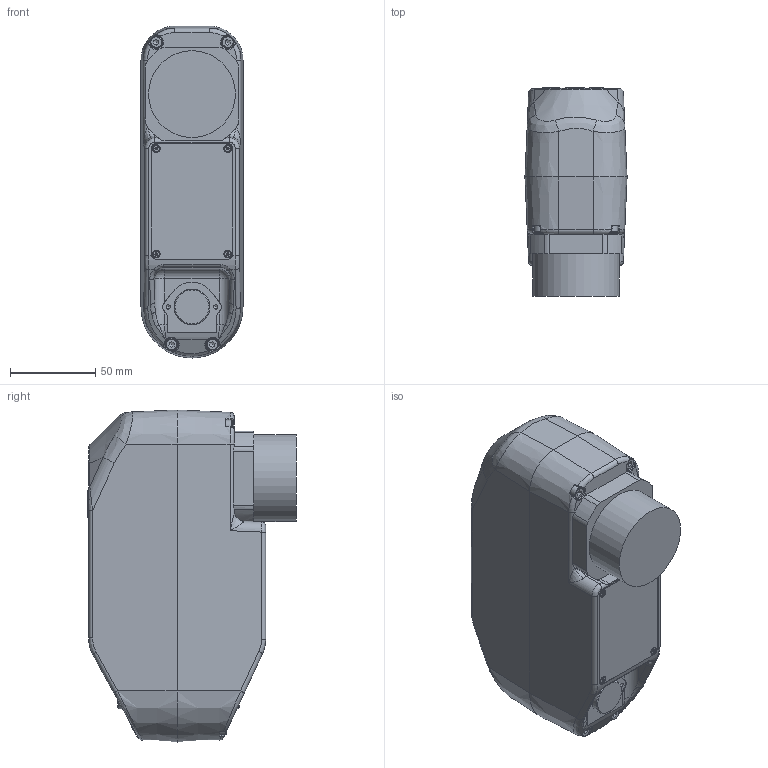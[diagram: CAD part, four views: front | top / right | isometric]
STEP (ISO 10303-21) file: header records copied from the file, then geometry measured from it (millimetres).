
FILE_DESCRIPTION(/* description */ (''),/* implementation_level */ '2;1');
FILE_NAME(/* name */ 'Distal link assembly_Shrinkwrap_1.stp',/* time_stamp */ '2023-09-11T10:15:01-04:00',/* author */ ('Jonathan'),/* organization */ (''),/* preprocessor_version */ 'ST-DEVELOPER v19.2',/* originating_system */ 'Autodesk Inventor 2024',/* authorisation */ '');
FILE_SCHEMA (('AUTOMOTIVE_DESIGN { 1 0 10303 214 3 1 1 }'));
Length unit declared in the file: inch
Products named in the file (1): Distal link assembly_Shrinkwrap_1
Bounding box: 60 x 122.5 x 195 mm (x, y, z)
Volume: 1008990.8 mm3; surface area: 69529.5 mm2
Topology: 1 solids, 1 shells, 608 faces, 1605 edges, 1033 vertices
Faces by surface type: plane 261, cylinder 189, bspline 114, cone 31, torus 11, sphere 2
Full cylindrical faces by diameter (mm): 1.575 x4, 2.459 x4, 3.5 x4, 7 x4, 21 x2, 51 x1
Entity records: 22768 total; most frequent: CARTESIAN_POINT 7746, ORIENTED_EDGE 3166, DIRECTION 2691, EDGE_CURVE 1583, VERTEX_POINT 1033, AXIS2_PLACEMENT_3D 923, LINE 845, VECTOR 845
